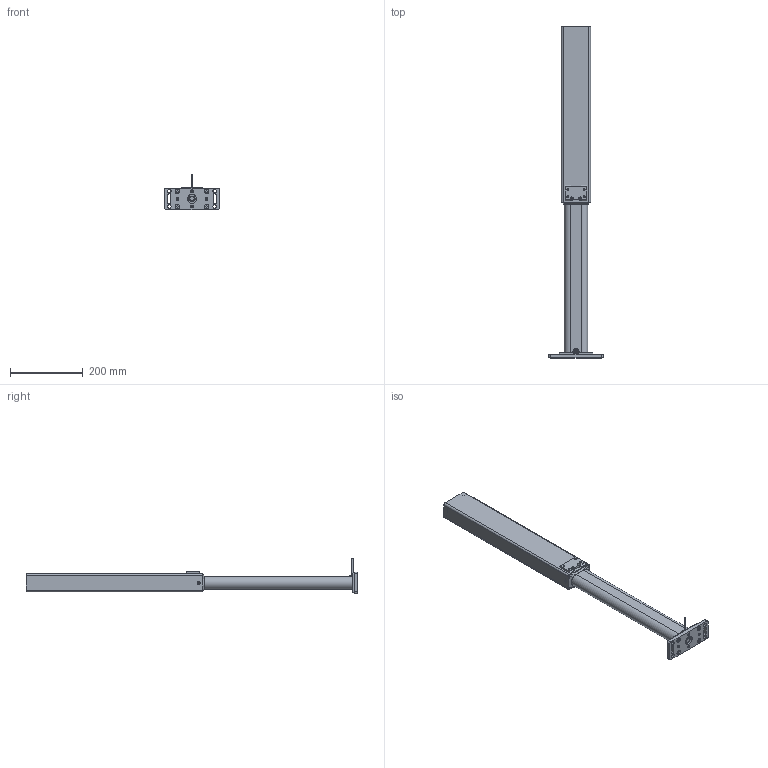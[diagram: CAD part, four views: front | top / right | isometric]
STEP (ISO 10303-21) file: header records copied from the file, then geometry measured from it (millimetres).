
FILE_DESCRIPTION(/* description */ ('Unknown'),/* implementation_level */ '2;1');
FILE_NAME(/* name */ '306.00091 Tischbein TA 1440 ausgefahren',/* time_stamp */ '2018-01-31T17:04:24+01:00',/* author */ ('Unknown'),/* organization */ ('Unknown'),/* preprocessor_version */ 'ST-DEVELOPER v16.7',/* originating_system */ 'DEX',/* authorisation */ $);
FILE_SCHEMA (('AUTOMOTIVE_DESIGN {1 0 10303 214 3 1 1}'));
Length unit declared in the file: millimetre
Products named in the file (21): 306.00091; 124.00004; 142.00068; 107.00148_oa_0; 115.00007_oa_1; 125.00033; 142.00021; 125.00021; 127.00038; 127.00049_oa_2; Aussenprofil TA 1440; 127.00032; 127.00035; Innenprofil TA 1440; Abschlussplatte; 127.00048; Schraube 2,9x6,4; 127.00049_2'403_2'488_Kehlnaht 1_oa_3; 113.00002_70mm; 142.00031; 142.00077
Assembly tree (27 placements, depth 3):
  306.00091
    124.00004
    142.00068
    107.00148_oa_0
      115.00007_oa_1
      125.00033
      142.00021
      125.00021
    127.00038
    127.00049_oa_2
      Aussenprofil TA 1440
      127.00032
      127.00035
      Innenprofil TA 1440
      Abschlussplatte
      127.00048
      Schraube 2,9x6,4  x6
    113.00002_70mm
    142.00031
    142.00077  x4
  127.00049_2'403_2'488_Kehlnaht 1_oa_3
Bounding box: 150 x 913.5 x 98 mm (x, y, z)
Volume: 510162.1 mm3; surface area: 465157.5 mm2
Topology: 28 solids, 28 shells, 980 faces, 2309 edges, 1375 vertices
Faces by surface type: cylinder 361, plane 329, bspline 129, torus 74, cone 74, sphere 13
Full cylindrical faces by diameter (mm): 1.8 x2, 2.2 x1, 2.5 x6, 2.78 x1, 2.9 x6, 3.5 x1, 4 x1, 4.1 x1, 4.2 x1, 4.917 x16, 5.8 x8, 6 x4, 6.5 x6, 6.647 x1, 6.917 x2, 7 x4, 8 x3, 8.376 x2, 9 x2, 10 x4, 12 x1, 12.5 x1, 13 x6, 13.5 x1, 13.9 x2, 25 x1
Entity records: 23792 total; most frequent: CARTESIAN_POINT 5859, DIRECTION 3257, ORIENTED_EDGE 3140, EDGE_CURVE 1570, AXIS2_PLACEMENT_3D 1296, VERTEX_POINT 1020, FACE_BOUND 962, EDGE_LOOP 960
